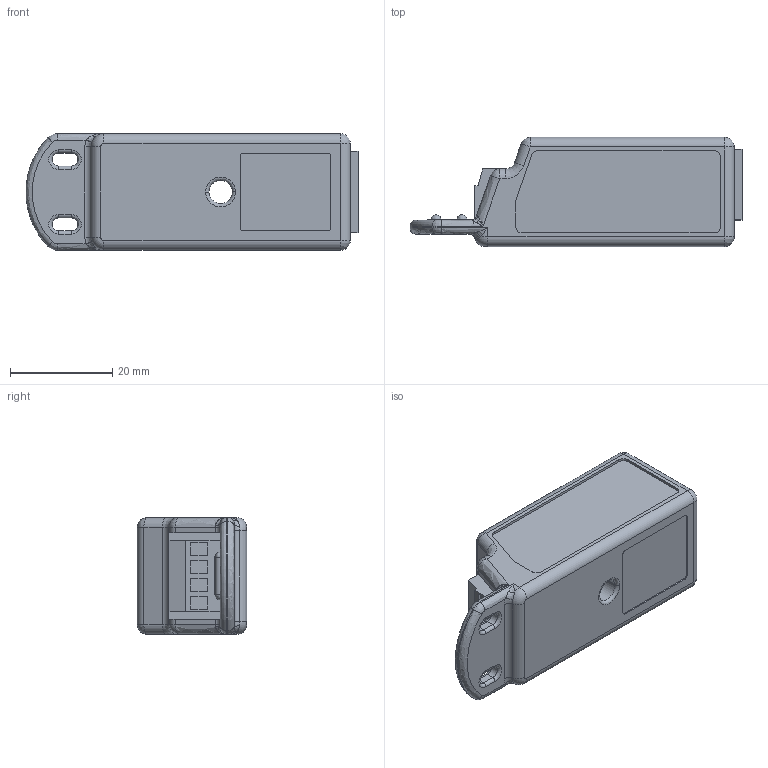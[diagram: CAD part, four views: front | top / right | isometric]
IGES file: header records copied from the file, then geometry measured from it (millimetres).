
Start section:  PTC IGES file: cu_ni-9944_9945.igs
Global section: file name: cu_ni-9944_9945.igs; native system: Creo Parametric by Parametric Technology Corporation; preprocessor: 2014000; author: dkendric; organization: Unknown; date: 20150520.170106; units: inch
Bounding box: 65.05 x 21.41 x 22.86 mm (x, y, z)
Surface area: 6599 mm2 (no closed solid volume)
Topology: 0 solids, 0 shells, 193 faces, 916 edges, 912 vertices
Faces by surface type: revolution 106, bspline 87
